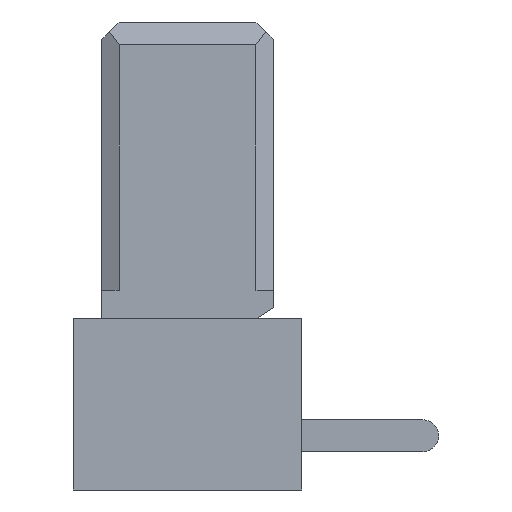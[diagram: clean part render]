
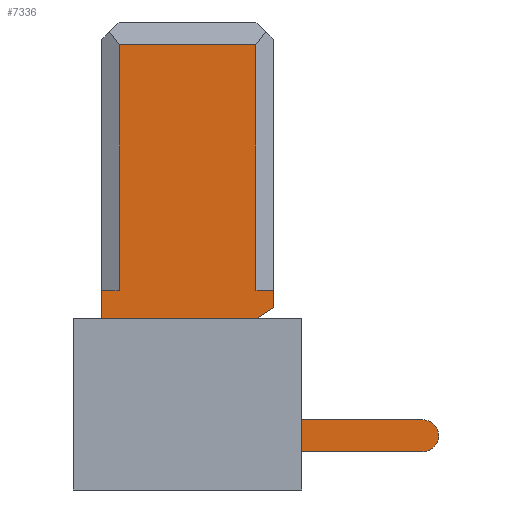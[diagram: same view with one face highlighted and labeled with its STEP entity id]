
A CAD part, left-side view. The second image highlights one B-rep face of the part: STEP entity #7336.
In plain terms, the highlighted planar face has unit normal (-1, 0, 0).
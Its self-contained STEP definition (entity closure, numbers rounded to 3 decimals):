
#117=DIRECTION('',(0.,0.,1.));
#118=VECTOR('',#117,1.04);
#119=CARTESIAN_POINT('',(-5.3,1.3,-1.41));
#120=LINE('',#119,#118);
#153=DIRECTION('',(0.,-1.,0.));
#154=VECTOR('',#153,0.5);
#155=CARTESIAN_POINT('',(-5.3,1.3,
0.));
#156=LINE('',#155,#154);
#2417=DIRECTION('',(0.,1.,0.));
#2418=VECTOR('',#2417,0.425);
#2419=CARTESIAN_POINT('',(-5.3,0.675,
-1.76));
#2420=LINE('',#2419,#2418);
#2512=DIRECTION('',(0.,1.,0.));
#2513=VECTOR('',#2512,2.9);
#2514=CARTESIAN_POINT('',(-5.3,0.6,-2.34));
#2515=LINE('',#2514,#2513);
#2564=DIRECTION('',(0.,0.832,-0.555));
#2565=VECTOR('',#2564,0.361);
#2566=CARTESIAN_POINT('',(-5.3,0.5,0.2));
#2567=LINE('',#2566,#2565);
#2568=DIRECTION('',(0.,1.,0.));
#2569=VECTOR('',#2568,0.15);
#2570=CARTESIAN_POINT('',(-5.3,1.3,
0.));
#2571=LINE('',#2570,#2569);
#2572=CARTESIAN_POINT('',(-5.3,1.45,-0.15));
#2573=DIRECTION('',(-1.,0.,0.));
#2574=DIRECTION('',(0.,0.,1.));
#2575=AXIS2_PLACEMENT_3D('',#2572,#2573,#2574);
#2577=DIRECTION('',(0.,-0.931,-0.365));
#2578=VECTOR('',#2577,0.22);
#2579=CARTESIAN_POINT('',(-5.3,1.505,-0.29));
#2580=LINE('',#2579,#2578);
#2581=DIRECTION('',(0.,0.913,-0.408));
#2582=VECTOR('',#2581,0.247);
#2583=CARTESIAN_POINT('',(-5.3,1.3,
-1.41));
#2584=LINE('',#2583,#2582);
#2585=CARTESIAN_POINT('',(-5.3,1.475,-1.625));
#2586=DIRECTION('',(-1.,0.,0.));
#2587=DIRECTION('',(0.,0.408,0.913));
#2588=AXIS2_PLACEMENT_3D('',#2585,#2586,#2587);
#2590=DIRECTION('',(0.,-0.707,-0.707));
#2591=VECTOR('',#2590,0.014);
#2592=CARTESIAN_POINT('',(-5.3,1.11,
-1.75));
#2593=LINE('',#2592,#2591);
#2594=DIRECTION('',(0.,-0.928,-0.371));
#2595=VECTOR('',#2594,0.081);
#2596=CARTESIAN_POINT('',(-5.3,0.675,
-1.76));
#2597=LINE('',#2596,#2595);
#2598=CARTESIAN_POINT('',(-5.3,-2.12,-2.05));
#2599=DIRECTION('',(1.,0.,0.));
#2600=DIRECTION('',(0.,0.,1.));
#2601=AXIS2_PLACEMENT_3D('',#2598,#2599,#2600);
#2603=DIRECTION('',(0.,0.,-1.));
#2604=VECTOR('',#2603,0.5);
#2605=CARTESIAN_POINT('',(-5.3,3.5,0.5));
#2606=LINE('',#2605,#2604);
#2619=DIRECTION('',(0.,1.,0.));
#2620=VECTOR('',#2619,0.3);
#2621=CARTESIAN_POINT('',(-5.3,3.2,0.5));
#2622=LINE('',#2621,#2620);
#2623=DIRECTION('',(0.,0.,-1.));
#2624=VECTOR('',#2623,4.3);
#2625=CARTESIAN_POINT('',(-5.3,3.2,4.8));
#2626=LINE('',#2625,#2624);
#2703=DIRECTION('',(0.,0.,1.));
#2704=VECTOR('',#2703,0.3);
#2705=CARTESIAN_POINT('',(-5.3,0.5,0.2));
#2706=LINE('',#2705,#2704);
#2711=DIRECTION('',(0.,1.,0.));
#2712=VECTOR('',#2711,0.3);
#2713=CARTESIAN_POINT('',(-5.3,0.5,0.5));
#2714=LINE('',#2713,#2712);
#2723=DIRECTION('',(0.,0.,1.));
#2724=VECTOR('',#2723,4.3);
#2725=CARTESIAN_POINT('',(-5.3,0.8,0.5));
#2726=LINE('',#2725,#2724);
#2739=DIRECTION('',(0.,1.,0.));
#2740=VECTOR('',#2739,2.4);
#2741=CARTESIAN_POINT('',(-5.3,0.8,4.8));
#2742=LINE('',#2741,#2740);
#2811=DIRECTION('',(0.,0.,-1.));
#2812=VECTOR('',#2811,2.34);
#2813=CARTESIAN_POINT('',(-5.3,3.5,0.));
#2814=LINE('',#2813,#2812);
#2835=DIRECTION('',(0.,1.,0.));
#2836=VECTOR('',#2835,0.365);
#2837=CARTESIAN_POINT('',(-5.3,1.11,
-1.75));
#2838=LINE('',#2837,#2836);
#2847=DIRECTION('',(0.,0.,-1.));
#2848=VECTOR('',#2847,0.02);
#2849=CARTESIAN_POINT('',(-5.3,0.6,-1.77));
#2850=LINE('',#2849,#2848);
#2859=DIRECTION('',(0.,1.,0.));
#2860=VECTOR('',#2859,2.72);
#2861=CARTESIAN_POINT('',(-5.3,-2.12,-1.77));
#2862=LINE('',#2861,#2860);
#2875=DIRECTION('',(0.,-1.,0.));
#2876=VECTOR('',#2875,2.72);
#2877=CARTESIAN_POINT('',(-5.3,0.6,-2.33));
#2878=LINE('',#2877,#2876);
#2887=DIRECTION('',(0.,0.,1.));
#2888=VECTOR('',#2887,0.01);
#2889=CARTESIAN_POINT('',(-5.3,0.6,-2.34));
#2890=LINE('',#2889,#2888);
#2925=CARTESIAN_POINT('',(-5.3,1.3,
0.));
#2926=VERTEX_POINT('',#2925);
#3093=CARTESIAN_POINT('',(-5.3,1.1,
-1.76));
#3094=VERTEX_POINT('',#3093);
#3285=CARTESIAN_POINT('',(-5.3,1.45,0.));
#3286=VERTEX_POINT('',#3285);
#3333=CARTESIAN_POINT('',(-5.3,3.5,0.5));
#3334=CARTESIAN_POINT('',(-5.3,3.5,0.));
#3335=VERTEX_POINT('',#3333);
#3336=VERTEX_POINT('',#3334);
#3337=CARTESIAN_POINT('',(-5.3,3.5,-2.34));
#3338=VERTEX_POINT('',#3337);
#3339=CARTESIAN_POINT('',(-5.3,0.6,-2.34));
#3340=CARTESIAN_POINT('',(-5.3,0.6,-2.33));
#3341=VERTEX_POINT('',#3339);
#3342=VERTEX_POINT('',#3340);
#3343=CARTESIAN_POINT('',(-5.3,-2.12,-2.33));
#3344=VERTEX_POINT('',#3343);
#3345=CARTESIAN_POINT('',(-5.3,-2.12,-1.77));
#3346=VERTEX_POINT('',#3345);
#3347=CARTESIAN_POINT('',(-5.3,0.6,-1.77));
#3348=VERTEX_POINT('',#3347);
#3349=CARTESIAN_POINT('',(-5.3,0.6,-1.79));
#3350=VERTEX_POINT('',#3349);
#3351=CARTESIAN_POINT('',(-5.3,0.675,
-1.76));
#3352=VERTEX_POINT('',#3351);
#3353=CARTESIAN_POINT('',(-5.3,1.11,
-1.75));
#3354=CARTESIAN_POINT('',(-5.3,1.475,-1.75));
#3355=VERTEX_POINT('',#3353);
#3356=VERTEX_POINT('',#3354);
#3357=CARTESIAN_POINT('',(-5.3,1.526,-1.511));
#3358=VERTEX_POINT('',#3357);
#3359=CARTESIAN_POINT('',(-5.3,1.3,
-1.41));
#3360=VERTEX_POINT('',#3359);
#3361=CARTESIAN_POINT('',(-5.3,1.505,-0.29));
#3362=CARTESIAN_POINT('',(-5.3,1.3,
-0.37));
#3363=VERTEX_POINT('',#3361);
#3364=VERTEX_POINT('',#3362);
#3365=CARTESIAN_POINT('',(-5.3,0.5,0.2));
#3366=CARTESIAN_POINT('',(-5.3,0.8,
0.));
#3367=VERTEX_POINT('',#3365);
#3368=VERTEX_POINT('',#3366);
#3369=CARTESIAN_POINT('',(-5.3,0.5,0.5));
#3370=VERTEX_POINT('',#3369);
#3371=CARTESIAN_POINT('',(-5.3,0.8,0.5));
#3372=VERTEX_POINT('',#3371);
#3373=CARTESIAN_POINT('',(-5.3,0.8,4.8));
#3374=VERTEX_POINT('',#3373);
#3375=CARTESIAN_POINT('',(-5.3,3.2,4.8));
#3376=VERTEX_POINT('',#3375);
#3377=CARTESIAN_POINT('',(-5.3,3.2,0.5));
#3378=VERTEX_POINT('',#3377);
#7283=CARTESIAN_POINT('',(-5.3,0.55,1.23));
#7284=DIRECTION('',(1.,0.,0.));
#7285=DIRECTION('',(0.,0.,-1.));
#7286=AXIS2_PLACEMENT_3D('',#7283,#7284,#7285);
#7287=PLANE('',#7286);
#7289=ORIENTED_EDGE('',*,*,#7288,.F.);
#7291=ORIENTED_EDGE('',*,*,#7290,.F.);
#7293=ORIENTED_EDGE('',*,*,#7292,.F.);
#7295=ORIENTED_EDGE('',*,*,#7294,.F.);
#7297=ORIENTED_EDGE('',*,*,#7296,.F.);
#7299=ORIENTED_EDGE('',*,*,#7298,.F.);
#7301=ORIENTED_EDGE('',*,*,#7300,.F.);
#7303=ORIENTED_EDGE('',*,*,#7302,.T.);
#7304=ORIENTED_EDGE('',*,*,#4069,.F.);
#7306=ORIENTED_EDGE('',*,*,#7305,.T.);
#7308=ORIENTED_EDGE('',*,*,#7307,.T.);
#7310=ORIENTED_EDGE('',*,*,#7309,.T.);
#7311=ORIENTED_EDGE('',*,*,#4012,.F.);
#7313=ORIENTED_EDGE('',*,*,#7312,.T.);
#7315=ORIENTED_EDGE('',*,*,#7314,.T.);
#7317=ORIENTED_EDGE('',*,*,#7316,.F.);
#7318=ORIENTED_EDGE('',*,*,#7274,.T.);
#7319=ORIENTED_EDGE('',*,*,#7121,.F.);
#7320=ORIENTED_EDGE('',*,*,#7145,.T.);
#7322=ORIENTED_EDGE('',*,*,#7321,.F.);
#7324=ORIENTED_EDGE('',*,*,#7323,.F.);
#7326=ORIENTED_EDGE('',*,*,#7325,.T.);
#7328=ORIENTED_EDGE('',*,*,#7327,.F.);
#7330=ORIENTED_EDGE('',*,*,#7329,.F.);
#7331=ORIENTED_EDGE('',*,*,#7228,.T.);
#7333=ORIENTED_EDGE('',*,*,#7332,.F.);
#7334=EDGE_LOOP('',(#7289,#7291,#7293,#7295,#7297,#7299,#7301,#7303,#7304,#7306,
#7308,#7310,#7311,#7313,#7315,#7317,#7318,#7319,#7320,#7322,#7324,#7326,#7328,
#7330,#7331,#7333));
#7335=FACE_OUTER_BOUND('',#7334,.F.);
#7336=ADVANCED_FACE('',(#7335),#7287,.F.);
#2576=CIRCLE('',#2575,0.15);
#2589=CIRCLE('',#2588,0.125);
#2602=CIRCLE('',#2601,0.28);
#4012=EDGE_CURVE('',#3360,#3364,#120,.T.);
#4069=EDGE_CURVE('',#2926,#3368,#156,.T.);
#7121=EDGE_CURVE('',#3352,#3094,#2420,.T.);
#7145=EDGE_CURVE('',#3352,#3350,#2597,.T.);
#7228=EDGE_CURVE('',#3341,#3338,#2515,.T.);
#7274=EDGE_CURVE('',#3355,#3094,#2593,.T.);
#7288=EDGE_CURVE('',#3335,#3336,#2606,.T.);
#7290=EDGE_CURVE('',#3378,#3335,#2622,.T.);
#7292=EDGE_CURVE('',#3376,#3378,#2626,.T.);
#7294=EDGE_CURVE('',#3374,#3376,#2742,.T.);
#7296=EDGE_CURVE('',#3372,#3374,#2726,.T.);
#7298=EDGE_CURVE('',#3370,#3372,#2714,.T.);
#7300=EDGE_CURVE('',#3367,#3370,#2706,.T.);
#7302=EDGE_CURVE('',#3367,#3368,#2567,.T.);
#7305=EDGE_CURVE('',#2926,#3286,#2571,.T.);
#7307=EDGE_CURVE('',#3286,#3363,#2576,.T.);
#7309=EDGE_CURVE('',#3363,#3364,#2580,.T.);
#7312=EDGE_CURVE('',#3360,#3358,#2584,.T.);
#7314=EDGE_CURVE('',#3358,#3356,#2589,.T.);
#7316=EDGE_CURVE('',#3355,#3356,#2838,.T.);
#7321=EDGE_CURVE('',#3348,#3350,#2850,.T.);
#7323=EDGE_CURVE('',#3346,#3348,#2862,.T.);
#7325=EDGE_CURVE('',#3346,#3344,#2602,.T.);
#7327=EDGE_CURVE('',#3342,#3344,#2878,.T.);
#7329=EDGE_CURVE('',#3341,#3342,#2890,.T.);
#7332=EDGE_CURVE('',#3336,#3338,#2814,.T.);
